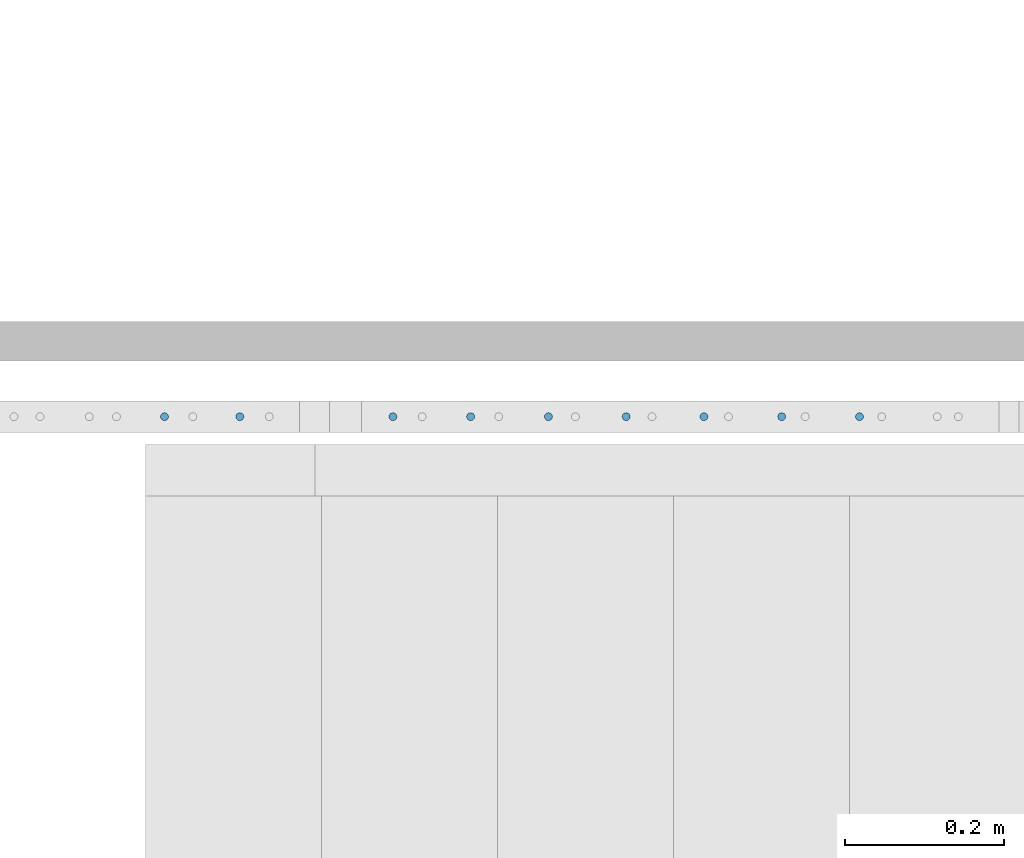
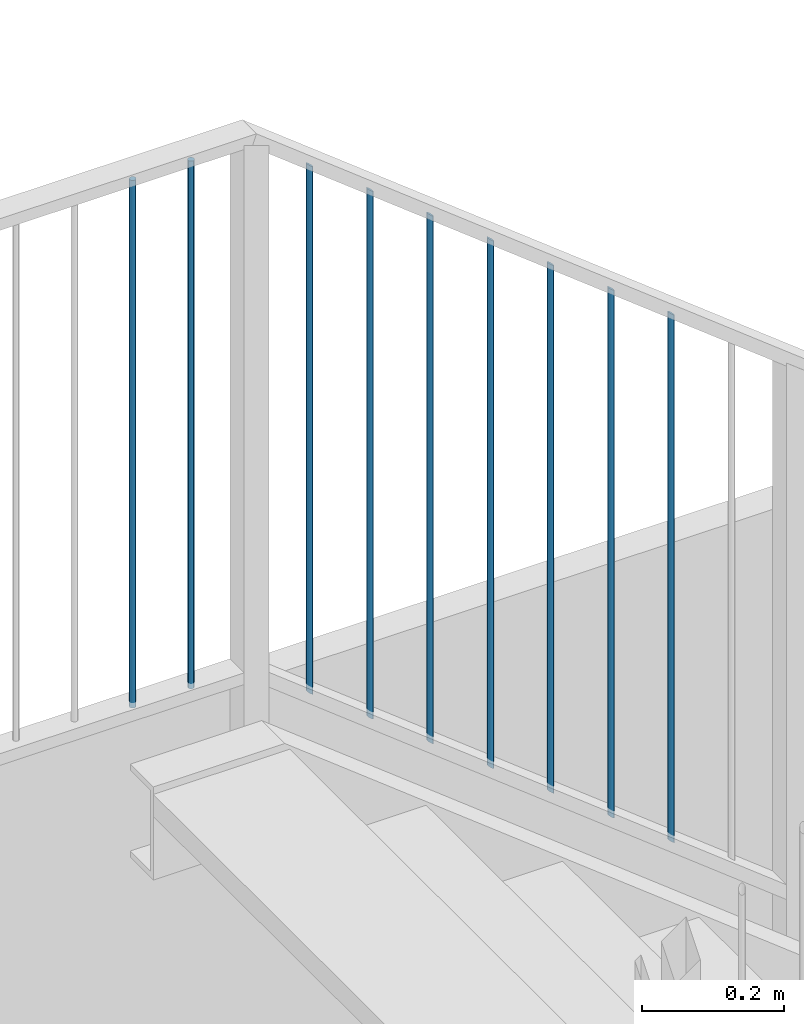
# One storey, part 29 of 135: 9 members, 1 element without a shape of its own.
"""IFC2X3 building model written with IfcOpenShell, lengths in millimetres."""

from ifc_helpers import new_model, entity, si_unit, converted_unit, derived_unit, money_unit, direction, frame, origin_with_axes, place, context, subcontext, project, spatial, faceted_brep, source, transform, mapped, material, type_object, type_shapes, element, aggregate, save


model = new_model("IFC2X3")

# Units and contexts
model_context = context("Model", 3, precision=0.01, world=origin_with_axes(), true_north=direction((0.0, 1.0)))
body_context = subcontext(model_context, "Body", "Model", "MODEL_VIEW")
ifc_project = project(units=[si_unit("LENGTHUNIT", "METRE", prefix="MILLI"), si_unit("AREAUNIT", "SQUARE_METRE"), si_unit("VOLUMEUNIT", "CUBIC_METRE"), converted_unit("PLANEANGLEUNIT", "DEGREE", entity("IfcPlaneAngleMeasure", 0.0174532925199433), si_unit("PLANEANGLEUNIT", "RADIAN"), dimensions=[0, 0, 0, 0, 0, 0, 0]), money_unit("EUR"), converted_unit("TIMEUNIT", "Year", entity("IfcTimeMeasure", 31557600.0), si_unit("TIMEUNIT", "SECOND"), dimensions=[0, 0, 1, 0, 0, 0, 0]), si_unit("MASSUNIT", "GRAM", prefix="KILO"), si_unit("THERMODYNAMICTEMPERATUREUNIT", "DEGREE_CELSIUS"), si_unit("LUMINOUSINTENSITYUNIT", "LUMEN"), si_unit("ENERGYUNIT", "JOULE", prefix="MEGA"), derived_unit("THERMALCONDUCTANCEUNIT", [(si_unit("POWERUNIT", "WATT"), 1), (si_unit("LENGTHUNIT", "METRE"), -1), (si_unit("THERMODYNAMICTEMPERATUREUNIT", "KELVIN"), -1)]), derived_unit("SPECIFICHEATCAPACITYUNIT", [(si_unit("ENERGYUNIT", "JOULE"), 1), (si_unit("MASSUNIT", "GRAM", prefix="KILO"), -1), (si_unit("THERMODYNAMICTEMPERATUREUNIT", "KELVIN"), -1)]), derived_unit("MASSDENSITYUNIT", [(si_unit("MASSUNIT", "GRAM", prefix="KILO"), 1), (si_unit("VOLUMEUNIT", "CUBIC_METRE"), -1)])], contexts=[model_context])

# Site, building, storey
site_placement = place(None, origin_with_axes())
site = spatial("IfcSite", under=ifc_project, at=site_placement, Name="Site", CompositionType="ELEMENT")
building_placement = place(site_placement, origin_with_axes())
building = spatial("IfcBuilding", under=site, at=building_placement, Name="Naam gebouw", CompositionType="ELEMENT")
storey_placement = place(building_placement, origin_with_axes())
storey = spatial("IfcBuildingStorey", under=building, at=storey_placement, Name="Begane grond N", CompositionType="ELEMENT", Elevation=0.0)

# Railing, members
railing_type = type_object("IfcRailingType", Name="Railing Type", PredefinedType="NOTDEFINED")
railing_placement = place(storey_placement, frame((56236.62159597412, 21185.9124251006, 157.4646725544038), z_axis=(0.0, 0.0, 1.0), x_axis=(1.0, 0.0, 0.0)))
railing = element("IfcRailing", 1, at=railing_placement, inside=storey, type_object=railing_type, Name="_Reling-x", PredefinedType="NOTDEFINED")
ifc_material = material(Name="Metaal - Staal C")
member_type = type_object("IfcMemberType", Name="IfcMember", PredefinedType="MEMBER")
shared_shape_1 = source(origin_with_axes(), body_context, "Body", "Brep", [
    faceted_brep([(0.0, -5.0, 0.0), (0.8682408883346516, -4.92403876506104, 0.0), (0.868240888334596, -4.92403876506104, 907.5000000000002), (0.0, -5.0, 907.5000000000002), (-0.868240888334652, -4.92403876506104, 0.0), (-1.710100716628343, -4.698463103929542, 0.0), (-2.500000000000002, -4.330127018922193, 0.0), (-3.213938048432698, -3.830222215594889, 0.0), (-3.830222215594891, -3.213938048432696, 0.0), (-4.330127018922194, -2.5, 0.0), (-4.698463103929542, -1.710100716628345, 0.0), (-4.924038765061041, -0.86824088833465, 0.0), (-5.0, 0.0, 0.0), (-4.92403876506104, 0.8682408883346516, 0.0), (-4.698463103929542, 1.710100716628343, 0.0), (-4.330127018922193, 2.500000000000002, 0.0), (-3.83022221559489, 3.213938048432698, 0.0), (-3.213938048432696, 3.83022221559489, 0.0), (-2.5, 4.330127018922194, 0.0), (-1.710100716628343, 4.698463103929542, 0.0), (-0.8682408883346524, 4.92403876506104, 0.0), (0.0, 5.0, 0.0), (0.8682408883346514, 4.92403876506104, 0.0), (1.710100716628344, 4.698463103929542, 0.0), (2.5, 4.330127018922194, 0.0), (3.213938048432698, 3.83022221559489, 0.0), (3.83022221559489, 3.213938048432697, 0.0), (4.330127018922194, 2.499999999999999, 0.0), (4.698463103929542, 1.710100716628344, 0.0), (4.92403876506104, 0.8682408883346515, 0.0), (5.0, 0.0, 0.0), (4.92403876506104, -0.8682408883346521, 0.0), (4.698463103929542, -1.710100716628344, 0.0), (4.330127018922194, -2.5, 0.0), (3.83022221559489, -3.213938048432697, 0.0), (3.213938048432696, -3.83022221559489, 0.0), (2.5, -4.330127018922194, 0.0), (1.710100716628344, -4.698463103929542, 0.0), (1.710100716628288, -4.698463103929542, 907.5000000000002), (2.499999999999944, -4.330127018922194, 907.5000000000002), (3.213938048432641, -3.83022221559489, 907.5000000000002), (3.830222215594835, -3.213938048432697, 907.5000000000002), (4.330127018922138, -2.5, 907.5000000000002), (4.698463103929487, -1.710100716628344, 907.5000000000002), (4.924038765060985, -0.8682408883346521, 907.5000000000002), (4.999999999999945, 0.0, 907.5000000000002), (4.924038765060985, 0.8682408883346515, 907.5000000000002), (4.698463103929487, 1.710100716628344, 907.5000000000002), (4.330127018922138, 2.499999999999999, 907.5000000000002), (3.830222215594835, 3.213938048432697, 907.5000000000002), (3.213938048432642, 3.83022221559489, 907.5000000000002), (2.499999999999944, 4.330127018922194, 907.5000000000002), (1.710100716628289, 4.698463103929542, 907.5000000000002), (0.8682408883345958, 4.92403876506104, 907.5000000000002), (0.0, 5.0, 907.5000000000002), (-0.868240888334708, 4.92403876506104, 907.5000000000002), (-1.710100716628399, 4.698463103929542, 907.5000000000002), (-2.500000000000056, 4.330127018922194, 907.5000000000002), (-3.213938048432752, 3.83022221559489, 907.5000000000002), (-3.830222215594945, 3.213938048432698, 907.5000000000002), (-4.330127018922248, 2.500000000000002, 907.5000000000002), (-4.698463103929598, 1.710100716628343, 907.5000000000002), (-4.924038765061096, 0.8682408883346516, 907.5000000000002), (-5.000000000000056, 0.0, 907.5000000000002), (-4.924038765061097, -0.86824088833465, 907.5000000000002), (-4.698463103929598, -1.710100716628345, 907.5000000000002), (-4.330127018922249, -2.5, 907.5000000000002), (-3.830222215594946, -3.213938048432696, 907.5000000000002), (-3.213938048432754, -3.830222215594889, 907.5000000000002), (-2.500000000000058, -4.330127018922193, 907.5000000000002), (-1.710100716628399, -4.698463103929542, 907.5000000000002), (-0.8682408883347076, -4.92403876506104, 907.5000000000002)], [[[0, 1, 2, 3]], [[0, 4, 5, 6, 7, 8, 9, 10, 11, 12, 13, 14, 15, 16, 17, 18, 19, 20, 21, 22, 23, 24, 25, 26, 27, 28, 29, 30, 31, 32, 33, 34, 35, 36, 37, 1]], [[1, 37, 38, 2]], [[3, 2, 38, 39, 40, 41, 42, 43, 44, 45, 46, 47, 48, 49, 50, 51, 52, 53, 54, 55, 56, 57, 58, 59, 60, 61, 62, 63, 64, 65, 66, 67, 68, 69, 70, 71]], [[4, 0, 3, 71]], [[5, 4, 71, 70]], [[6, 5, 70, 69]], [[7, 6, 69, 68]], [[8, 7, 68, 67]], [[9, 8, 67, 66]], [[10, 9, 66, 65]], [[11, 10, 65, 64]], [[12, 11, 64, 63]], [[13, 12, 63, 62]], [[14, 13, 62, 61]], [[15, 14, 61, 60]], [[16, 15, 60, 59]], [[17, 16, 59, 58]], [[18, 17, 58, 57]], [[19, 18, 57, 56]], [[20, 19, 56, 55]], [[21, 20, 55, 54]], [[22, 21, 54, 53]], [[23, 22, 53, 52]], [[24, 23, 52, 51]], [[25, 24, 51, 50]], [[26, 25, 50, 49]], [[27, 26, 49, 48]], [[28, 27, 48, 47]], [[29, 28, 47, 46]], [[30, 29, 46, 45]], [[31, 30, 45, 44]], [[32, 31, 44, 43]], [[33, 32, 43, 42]], [[34, 33, 42, 41]], [[35, 34, 41, 40]], [[36, 35, 40, 39]], [[37, 36, 39, 38]]]),
])
member_1_placement = place(railing_placement, frame((7.070070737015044, 2465.000000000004, 4075.163046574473), z_axis=(0.0, 0.0, 1.0), x_axis=(1.0, 0.0, 0.0)))
member_1 = element("IfcMember", 2, at=member_1_placement, type_object=member_type, material=ifc_material, Name="_Spijlen-x", ObjectType="MEMBER", context=body_context, shape_type="MappedRepresentation", body=[
    mapped(shared_shape_1, transform((0.0, 0.0, 0.0), x_axis=(0.0, 1.0, 0.0), y_axis=(-1.0, 0.0, 0.0), z_axis=(0.0, 0.0, 1.0))),
])
member_2_placement = place(railing_placement, frame((-87.83898934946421, 2465.000000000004, 4075.163046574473), z_axis=(0.0, 0.0, 1.0), x_axis=(1.0, 0.0, 0.0)))
member_2 = element("IfcMember", 3, at=member_2_placement, type_object=member_type, material=ifc_material, Name="_Spijlen-x", ObjectType="MEMBER", context=body_context, shape_type="MappedRepresentation", body=[
    mapped(shared_shape_1, transform((0.0, 0.0, 0.0), x_axis=(0.0, 1.0, 0.0), y_axis=(-1.0, 0.0, 0.0), z_axis=(0.0, 0.0, 1.0))),
])
shared_shape_2 = source(origin_with_axes(), body_context, "Body", "Brep", [
    faceted_brep([(0.0, -5.000000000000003, -3.920371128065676), (0.8682408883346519, -4.924038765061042, -3.860811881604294), (0.8682408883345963, -4.92403876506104, 903.6391881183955), (0.0, -5.0, 903.5796288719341), (-0.8682408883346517, -4.924038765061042, -3.860811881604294), (-1.710100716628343, -4.698463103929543, -3.683943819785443), (-2.500000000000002, -4.330127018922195, -3.395140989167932), (-3.213938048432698, -3.830222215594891, -3.00317851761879), (-3.830222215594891, -3.213938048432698, -2.519965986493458), (-4.330127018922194, -2.500000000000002, -1.960185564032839), (-4.698463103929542, -1.710100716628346, -1.340845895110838), (-4.924038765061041, -0.8682408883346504, -0.6807653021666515), (-5.0, 0.0, 0.0), (-4.92403876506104, 0.8682408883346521, 0.6807653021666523), (-4.698463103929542, 1.710100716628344, 1.340845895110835), (-4.330127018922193, 2.500000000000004, 1.960185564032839), (-3.83022221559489, 3.213938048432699, 2.519965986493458), (-3.213938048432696, 3.830222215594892, 3.003178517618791), (-2.5, 4.330127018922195, 3.395140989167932), (-1.710100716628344, 4.698463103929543, 3.683943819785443), (-0.8682408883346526, 4.924038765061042, 3.860811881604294), (0.0, 5.000000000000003, 3.920371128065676), (0.8682408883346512, 4.924038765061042, 3.860811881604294), (1.710100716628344, 4.698463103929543, 3.683943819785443), (2.5, 4.330127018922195, 3.395140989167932), (3.213938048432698, 3.830222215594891, 3.00317851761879), (3.83022221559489, 3.213938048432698, 2.519965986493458), (4.330127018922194, 2.5, 1.960185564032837), (4.698463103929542, 1.710100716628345, 1.340845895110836), (4.92403876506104, 0.868240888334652, 0.6807653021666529), (5.0, 0.0, 0.0), (4.92403876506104, -0.8682408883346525, -0.6807653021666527), (4.698463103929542, -1.710100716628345, -1.340845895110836), (4.330127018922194, -2.500000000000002, -1.960185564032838), (3.83022221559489, -3.213938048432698, -2.519965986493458), (3.213938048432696, -3.830222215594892, -3.003178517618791), (2.5, -4.330127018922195, -3.395140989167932), (1.710100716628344, -4.698463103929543, -3.683943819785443), (1.710100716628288, -4.698463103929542, 903.8160561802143), (2.499999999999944, -4.330127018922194, 904.1048590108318), (3.213938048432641, -3.83022221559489, 904.4968214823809), (3.830222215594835, -3.213938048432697, 904.9800340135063), (4.330127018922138, -2.5, 905.5398144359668), (4.698463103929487, -1.710100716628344, 906.1591541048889), (4.924038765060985, -0.8682408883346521, 906.819234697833), (4.999999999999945, 0.0, 907.4999999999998), (4.924038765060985, 0.8682408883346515, 908.1807653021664), (4.698463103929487, 1.710100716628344, 908.8408458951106), (4.330127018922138, 2.499999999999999, 909.4601855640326), (3.830222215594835, 3.213938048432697, 910.0199659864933), (3.213938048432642, 3.83022221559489, 910.5031785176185), (2.499999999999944, 4.330127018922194, 910.8951409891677), (1.710100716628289, 4.698463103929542, 911.1839438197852), (0.8682408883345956, 4.92403876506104, 911.360811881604), (0.0, 5.0, 911.4203711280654), (-0.8682408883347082, 4.92403876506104, 911.360811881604), (-1.710100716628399, 4.698463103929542, 911.1839438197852), (-2.500000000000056, 4.330127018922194, 910.8951409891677), (-3.213938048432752, 3.83022221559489, 910.5031785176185), (-3.830222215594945, 3.213938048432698, 910.0199659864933), (-4.330127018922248, 2.500000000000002, 909.4601855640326), (-4.698463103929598, 1.710100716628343, 908.8408458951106), (-4.924038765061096, 0.8682408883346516, 908.1807653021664), (-5.000000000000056, 0.0, 907.4999999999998), (-4.924038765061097, -0.86824088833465, 906.819234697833), (-4.698463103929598, -1.710100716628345, 906.1591541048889), (-4.330127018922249, -2.5, 905.5398144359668), (-3.830222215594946, -3.213938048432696, 904.9800340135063), (-3.213938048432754, -3.830222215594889, 904.4968214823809), (-2.500000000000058, -4.330127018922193, 904.1048590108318), (-1.710100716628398, -4.698463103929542, 903.8160561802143), (-0.8682408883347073, -4.92403876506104, 903.6391881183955)], [[[0, 1, 2, 3]], [[0, 4, 5, 6, 7, 8, 9, 10, 11, 12, 13, 14, 15, 16, 17, 18, 19, 20, 21, 22, 23, 24, 25, 26, 27, 28, 29, 30, 31, 32, 33, 34, 35, 36, 37, 1]], [[1, 37, 38, 2]], [[3, 2, 38, 39, 40, 41, 42, 43, 44, 45, 46, 47, 48, 49, 50, 51, 52, 53, 54, 55, 56, 57, 58, 59, 60, 61, 62, 63, 64, 65, 66, 67, 68, 69, 70, 71]], [[4, 0, 3, 71]], [[5, 4, 71, 70]], [[6, 5, 70, 69]], [[7, 6, 69, 68]], [[8, 7, 68, 67]], [[9, 8, 67, 66]], [[10, 9, 66, 65]], [[11, 10, 65, 64]], [[12, 11, 64, 63]], [[13, 12, 63, 62]], [[14, 13, 62, 61]], [[15, 14, 61, 60]], [[16, 15, 60, 59]], [[17, 16, 59, 58]], [[18, 17, 58, 57]], [[19, 18, 57, 56]], [[20, 19, 56, 55]], [[21, 20, 55, 54]], [[22, 21, 54, 53]], [[23, 22, 53, 52]], [[24, 23, 52, 51]], [[25, 24, 51, 50]], [[26, 25, 50, 49]], [[27, 26, 49, 48]], [[28, 27, 48, 47]], [[29, 28, 47, 46]], [[30, 29, 46, 45]], [[31, 30, 45, 44]], [[32, 31, 44, 43]], [[33, 32, 43, 42]], [[34, 33, 42, 41]], [[35, 34, 41, 40]], [[36, 35, 40, 39]], [[37, 36, 39, 38]]]),
])
type_shapes(member_type, [shared_shape_1, shared_shape_2])
member_3_placement = place(railing_placement, frame((788.0762469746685, 2465.000000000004, 3537.211981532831), z_axis=(0.0, 0.0, 1.0), x_axis=(1.0, 0.0, 0.0)))
member_3 = element("IfcMember", 4, at=member_3_placement, type_object=member_type, material=ifc_material, Name="_Spijlen-x", ObjectType="MEMBER", context=body_context, shape_type="MappedRepresentation", body=[
    mapped(shared_shape_2, transform((0.0, 0.0, 0.0), x_axis=(0.0, 1.0, 0.0), y_axis=(-1.0, 0.0, 0.0), z_axis=(0.0, 0.0, 1.0))),
])
member_4_placement = place(railing_placement, frame((690.0623732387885, 2465.000000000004, 3614.062133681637), z_axis=(0.0, 0.0, 1.0), x_axis=(1.0, 0.0, 0.0)))
member_4 = element("IfcMember", 5, at=member_4_placement, type_object=member_type, material=ifc_material, Name="_Spijlen-x", ObjectType="MEMBER", context=body_context, shape_type="MappedRepresentation", body=[
    mapped(shared_shape_2, transform((0.0, 0.0, 0.0), x_axis=(0.0, 1.0, 0.0), y_axis=(-1.0, 0.0, 0.0), z_axis=(0.0, 0.0, 1.0))),
])
member_5_placement = place(railing_placement, frame((592.0484995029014, 2465.000000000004, 3690.912285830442), z_axis=(0.0, 0.0, 1.0), x_axis=(1.0, 0.0, 0.0)))
member_5 = element("IfcMember", 6, at=member_5_placement, type_object=member_type, material=ifc_material, Name="_Spijlen-x", ObjectType="MEMBER", context=body_context, shape_type="MappedRepresentation", body=[
    mapped(shared_shape_2, transform((0.0, 0.0, 0.0), x_axis=(0.0, 1.0, 0.0), y_axis=(-1.0, 0.0, 0.0), z_axis=(0.0, 0.0, 1.0))),
])
member_6_placement = place(railing_placement, frame((494.0346257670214, 2465.000000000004, 3767.762437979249), z_axis=(0.0, 0.0, 1.0), x_axis=(1.0, 0.0, 0.0)))
member_6 = element("IfcMember", 7, at=member_6_placement, type_object=member_type, material=ifc_material, Name="_Spijlen-x", ObjectType="MEMBER", context=body_context, shape_type="MappedRepresentation", body=[
    mapped(shared_shape_2, transform((0.0, 0.0, 0.0), x_axis=(0.0, 1.0, 0.0), y_axis=(-1.0, 0.0, 0.0), z_axis=(0.0, 0.0, 1.0))),
])
member_7_placement = place(railing_placement, frame((396.0207520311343, 2465.000000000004, 3844.612590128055), z_axis=(0.0, 0.0, 1.0), x_axis=(1.0, 0.0, 0.0)))
member_7 = element("IfcMember", 8, at=member_7_placement, type_object=member_type, material=ifc_material, Name="_Spijlen-x", ObjectType="MEMBER", context=body_context, shape_type="MappedRepresentation", body=[
    mapped(shared_shape_2, transform((0.0, 0.0, 0.0), x_axis=(0.0, 1.0, 0.0), y_axis=(-1.0, 0.0, 0.0), z_axis=(0.0, 0.0, 1.0))),
])
member_8_placement = place(railing_placement, frame((298.0068782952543, 2465.000000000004, 3921.462742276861), z_axis=(0.0, 0.0, 1.0), x_axis=(1.0, 0.0, 0.0)))
member_8 = element("IfcMember", 9, at=member_8_placement, type_object=member_type, material=ifc_material, Name="_Spijlen-x", ObjectType="MEMBER", context=body_context, shape_type="MappedRepresentation", body=[
    mapped(shared_shape_2, transform((0.0, 0.0, 0.0), x_axis=(0.0, 1.0, 0.0), y_axis=(-1.0, 0.0, 0.0), z_axis=(0.0, 0.0, 1.0))),
])
member_9_placement = place(railing_placement, frame((199.9930045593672, 2465.000000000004, 3998.312894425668), z_axis=(0.0, 0.0, 1.0), x_axis=(1.0, 0.0, 0.0)))
member_9 = element("IfcMember", 10, at=member_9_placement, type_object=member_type, material=ifc_material, Name="_Spijlen-x", ObjectType="MEMBER", context=body_context, shape_type="MappedRepresentation", body=[
    mapped(shared_shape_2, transform((0.0, 0.0, 0.0), x_axis=(0.0, 1.0, 0.0), y_axis=(-1.0, 0.0, 0.0), z_axis=(0.0, 0.0, 1.0))),
])
aggregate(railing, [member_3, member_4, member_5, member_6, member_7, member_8, member_9, member_1, member_2])

save(model, "model.ifc")
